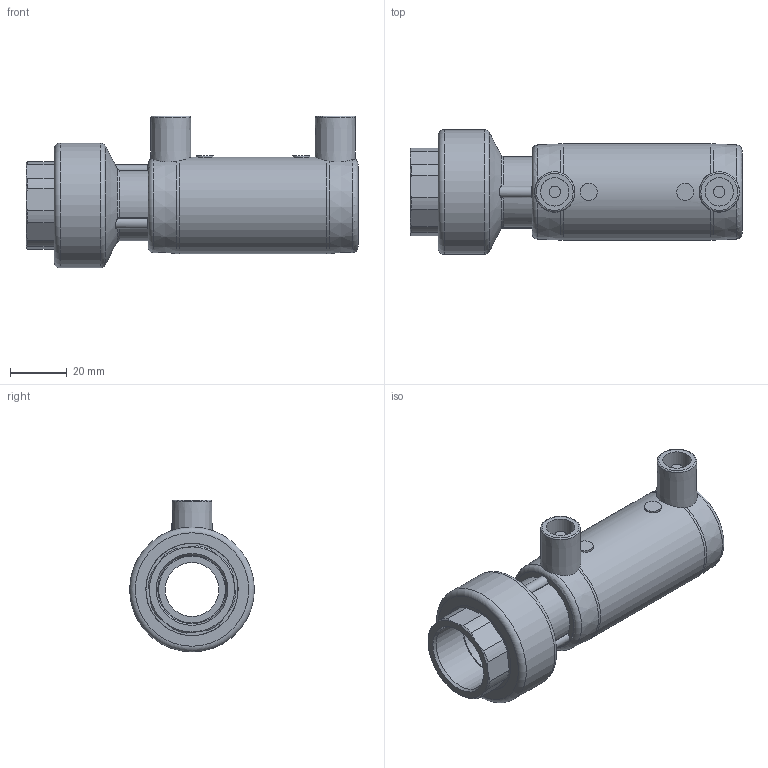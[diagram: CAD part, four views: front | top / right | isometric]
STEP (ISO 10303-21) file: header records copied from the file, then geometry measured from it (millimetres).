
FILE_DESCRIPTION(/* description */ ('Unknown'),/* implementation_level */ '2;1');
FILE_NAME(/* name */ 'MTFP025C',/* time_stamp */ '2021-03-02T09:07:45+01:00',/* author */ ('Unknown'),/* organization */ ('Unknown'),/* preprocessor_version */ 'ST-DEVELOPER v16.7',/* originating_system */ 'Solid Edge',/* authorisation */ 'Unknown');
FILE_SCHEMA (('AUTOMOTIVE_DESIGN {1 0 10303 214 3 1 1}'));
Length unit declared in the file: millimetre
Products named in the file (5): MTFP025C; MP025C; RTOFP025C; Parte PE 025; IOF025C
Assembly tree (4 placements, depth 3):
  MTFP025C
    MP025C
    RTOFP025C
      Parte PE 025
      IOF025C
Bounding box: 117 x 44 x 53.5 mm (x, y, z)
Volume: 68543.3 mm3; surface area: 37836.7 mm2
Topology: 3 solids, 3 shells, 527 faces, 1277 edges, 775 vertices
Faces by surface type: bspline 231, plane 118, cylinder 94, cone 43, torus 41
Full cylindrical faces by diameter (mm): 4 x2, 6 x2, 10 x2, 19 x1, 23.5 x3, 24.117 x1, 25 x2, 26.5 x2, 32.5 x2, 33.4 x2, 34 x1, 36 x4, 44 x1
Entity records: 19356 total; most frequent: CARTESIAN_POINT 6888, ORIENTED_EDGE 2438, DIRECTION 1996, EDGE_CURVE 1219, AXIS2_PLACEMENT_3D 920, VERTEX_POINT 757, EDGE_LOOP 592, FACE_BOUND 592
